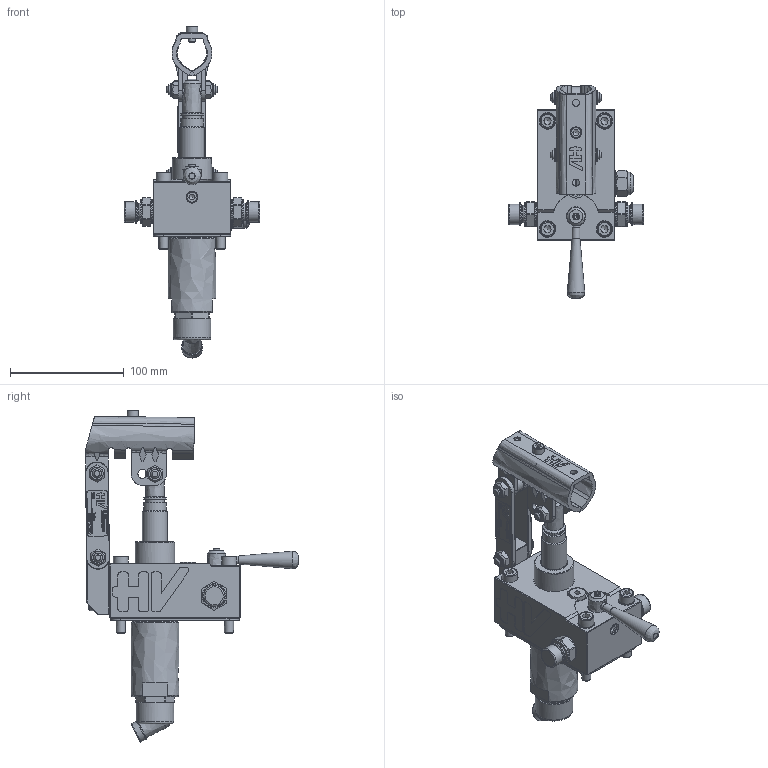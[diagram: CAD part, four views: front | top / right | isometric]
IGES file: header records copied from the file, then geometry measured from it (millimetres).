
Global section: file name: No Iges File Name specified; native system: Autodesk Inventor 2013; preprocessor: AutoDesk Inventor Iges Exporter R2013; author: christian.scardovi; date: 20240304.103658; units: millimetre
Bounding box: 119 x 187 x 291.58 mm (x, y, z)
Volume: 591557 mm3; surface area: 135709.4 mm2
Topology: 3 solids, 3 shells, 1450 faces, 3658 edges, 2350 vertices
Faces by surface type: bspline 1450
